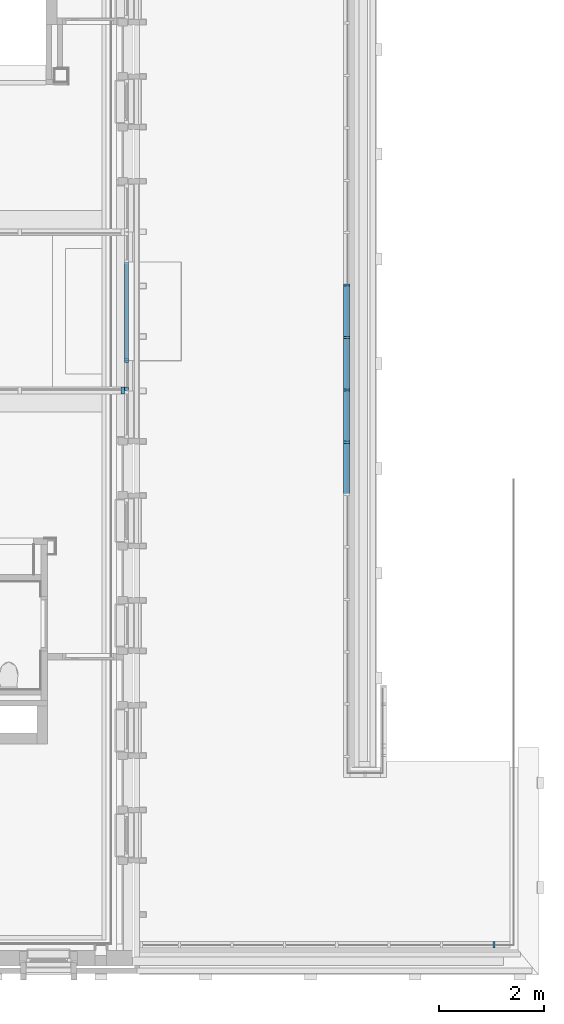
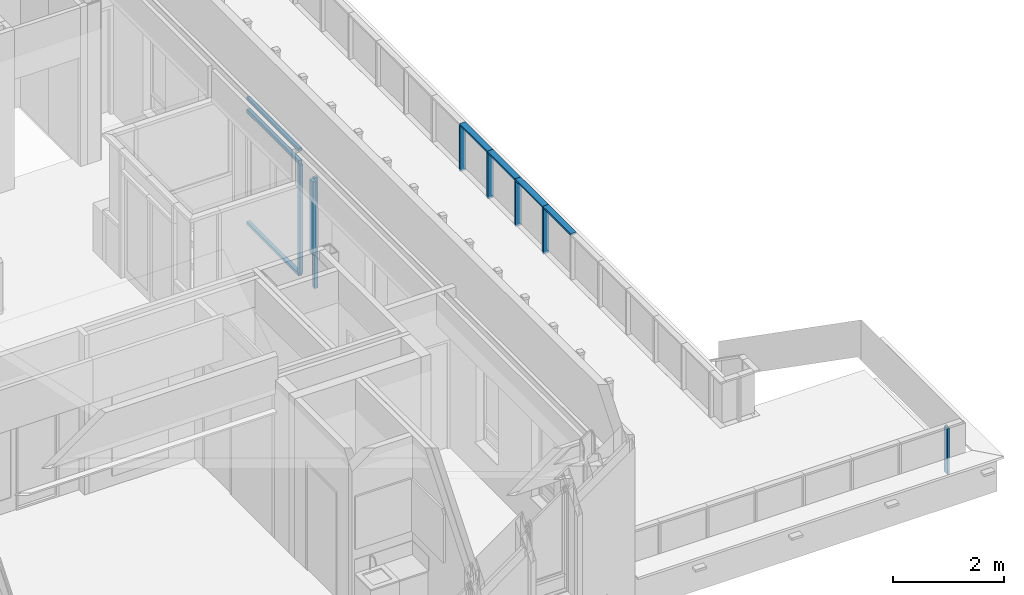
# One storey, part 4 of 118: 15 members, 4 elements without a shape of their own.
"""IFC2X3 building model written with IfcOpenShell, lengths in millimetres."""

from ifc_helpers import new_model, entity, si_unit, converted_unit, derived_unit, direction, frame, origin, origin_2d_with_axis, place, context, subcontext, project, spatial, rectangle, extrude, source, transform, mapped, material, material_list, type_object, type_shapes, element, aggregate, save


model = new_model("IFC2X3")

# Units and contexts
model_context = context("Model", 3, precision=0.01, world=origin(), true_north=direction((6.123031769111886e-17, 1.0)))
plan_context = context("Plan", 3, precision=0.01, world=origin(), true_north=direction((6.123031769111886e-17, 1.0)))
body_context = subcontext(model_context, "Body", "Model", "MODEL_VIEW")
ifc_project = project(units=[si_unit("LENGTHUNIT", "METRE", prefix="MILLI"), si_unit("AREAUNIT", "SQUARE_METRE"), si_unit("VOLUMEUNIT", "CUBIC_METRE"), converted_unit("PLANEANGLEUNIT", "DEGREE", entity("IfcRatioMeasure", 0.017453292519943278), si_unit("PLANEANGLEUNIT", "RADIAN"), dimensions=[0, 0, 0, 0, 0, 0, 0]), si_unit("MASSUNIT", "GRAM", prefix="KILO"), derived_unit("MASSDENSITYUNIT", [(si_unit("MASSUNIT", "GRAM", prefix="KILO"), 1), (si_unit("LENGTHUNIT", "METRE"), -3)]), derived_unit("IONCONCENTRATIONUNIT", [(si_unit("MASSUNIT", "GRAM", prefix="KILO"), 1), (si_unit("LENGTHUNIT", "METRE"), -3)]), derived_unit("MOMENTOFINERTIAUNIT", [(si_unit("LENGTHUNIT", "METRE"), 4)]), si_unit("TIMEUNIT", "SECOND"), si_unit("FREQUENCYUNIT", "HERTZ"), si_unit("THERMODYNAMICTEMPERATUREUNIT", "DEGREE_CELSIUS"), derived_unit("THERMALTRANSMITTANCEUNIT", [(si_unit("MASSUNIT", "GRAM", prefix="KILO"), 1), (si_unit("THERMODYNAMICTEMPERATUREUNIT", "KELVIN"), -1), (si_unit("TIMEUNIT", "SECOND"), -3)]), derived_unit("THERMALCONDUCTANCEUNIT", [(si_unit("MASSUNIT", "GRAM", prefix="KILO"), 1), (si_unit("THERMODYNAMICTEMPERATUREUNIT", "KELVIN"), -1), (si_unit("TIMEUNIT", "SECOND"), -3), (si_unit("LENGTHUNIT", "METRE"), 1)]), derived_unit("VOLUMETRICFLOWRATEUNIT", [(si_unit("LENGTHUNIT", "METRE"), 3), (si_unit("TIMEUNIT", "SECOND"), -1)]), derived_unit("MASSFLOWRATEUNIT", [(si_unit("MASSUNIT", "GRAM", prefix="KILO"), 1), (si_unit("TIMEUNIT", "SECOND"), -1)]), derived_unit("ROTATIONALFREQUENCYUNIT", [(si_unit("TIMEUNIT", "SECOND"), -1)]), si_unit("ELECTRICCURRENTUNIT", "AMPERE"), si_unit("ELECTRICVOLTAGEUNIT", "VOLT"), si_unit("POWERUNIT", "WATT"), si_unit("FORCEUNIT", "NEWTON", prefix="KILO"), si_unit("ILLUMINANCEUNIT", "LUX"), si_unit("LUMINOUSFLUXUNIT", "LUMEN"), si_unit("LUMINOUSINTENSITYUNIT", "CANDELA"), derived_unit("USERDEFINED", [(si_unit("MASSUNIT", "GRAM", prefix="KILO"), -1), (si_unit("LENGTHUNIT", "METRE"), -2), (si_unit("TIMEUNIT", "SECOND"), 3), (si_unit("LUMINOUSFLUXUNIT", "LUMEN"), 1)]), derived_unit("USERDEFINED", [(si_unit("MASSUNIT", "GRAM", prefix="KILO"), 1), (si_unit("TIMEUNIT", "SECOND"), -3), (si_unit("LENGTHUNIT", "METRE"), 3), (si_unit("ELECTRICCURRENTUNIT", "AMPERE"), -2)]), derived_unit("SOUNDPOWERUNIT", [(si_unit("MASSUNIT", "GRAM", prefix="KILO"), 1), (si_unit("TIMEUNIT", "SECOND"), -3), (si_unit("LENGTHUNIT", "METRE"), 2)]), derived_unit("SOUNDPRESSUREUNIT", [(si_unit("MASSUNIT", "GRAM", prefix="KILO"), 1), (si_unit("LENGTHUNIT", "METRE"), -1), (si_unit("TIMEUNIT", "SECOND"), -2)]), derived_unit("LINEARVELOCITYUNIT", [(si_unit("LENGTHUNIT", "METRE"), 1), (si_unit("TIMEUNIT", "SECOND"), -1)]), si_unit("PRESSUREUNIT", "PASCAL"), derived_unit("USERDEFINED", [(si_unit("MASSUNIT", "GRAM", prefix="KILO"), 1), (si_unit("LENGTHUNIT", "METRE"), -2), (si_unit("TIMEUNIT", "SECOND"), -2)]), derived_unit("LINEARFORCEUNIT", [(si_unit("MASSUNIT", "GRAM", prefix="KILO"), 1), (si_unit("TIMEUNIT", "SECOND"), -2)]), derived_unit("PLANARFORCEUNIT", [(si_unit("MASSUNIT", "GRAM", prefix="KILO"), 1), (si_unit("LENGTHUNIT", "METRE"), -1), (si_unit("TIMEUNIT", "SECOND"), -2)]), derived_unit("SPECIFICHEATCAPACITYUNIT", [(si_unit("THERMODYNAMICTEMPERATUREUNIT", "KELVIN"), -1), (si_unit("LENGTHUNIT", "METRE"), 2), (si_unit("TIMEUNIT", "SECOND"), -2)]), derived_unit("HEATINGVALUEUNIT", [(si_unit("LENGTHUNIT", "METRE"), 2), (si_unit("TIMEUNIT", "SECOND"), -2)]), derived_unit("VAPORPERMEABILITYUNIT", [(si_unit("LENGTHUNIT", "METRE"), -1), (si_unit("TIMEUNIT", "SECOND"), 1)]), derived_unit("DYNAMICVISCOSITYUNIT", [(si_unit("MASSUNIT", "GRAM", prefix="KILO"), 1), (si_unit("TIMEUNIT", "SECOND"), -1), (si_unit("LENGTHUNIT", "METRE"), -1)]), derived_unit("THERMALEXPANSIONCOEFFICIENTUNIT", [(si_unit("THERMODYNAMICTEMPERATUREUNIT", "KELVIN"), -1)]), derived_unit("MODULUSOFELASTICITYUNIT", [(si_unit("MASSUNIT", "GRAM", prefix="KILO"), 1), (si_unit("LENGTHUNIT", "METRE"), -1), (si_unit("TIMEUNIT", "SECOND"), -2)]), derived_unit("ISOTHERMALMOISTURECAPACITYUNIT", [(si_unit("LENGTHUNIT", "METRE"), 3), (si_unit("MASSUNIT", "GRAM", prefix="KILO"), -1)]), derived_unit("MOISTUREDIFFUSIVITYUNIT", [(si_unit("TIMEUNIT", "SECOND"), -1), (si_unit("LENGTHUNIT", "METRE"), 2)])], contexts=[model_context, plan_context])

# Site, building, storey
site_placement = place(None, origin())
site = spatial("IfcSite", under=ifc_project, at=site_placement, Name="Locatie", CompositionType="ELEMENT")
building_placement = place(site_placement, origin())
building = spatial("IfcBuilding", under=site, at=building_placement, Name="Bouwwerk", CompositionType="ELEMENT")
storey_placement = place(building_placement, frame((0.0, 0.0, 7800.0)))
storey = spatial("IfcBuildingStorey", under=building, at=storey_placement, Name="02 tweede verdieping", CompositionType="ELEMENT", Elevation=7800.000000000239)

# Curtain wall, members
curtain_wall_type_1 = type_object("IfcCurtainWallType", Name="Curtain Wall:NLRS_21_CW_Ontwerpkozijn_aluminium_RT72", PredefinedType="NOTDEFINED")
curtain_wall_1_placement = place(storey_placement, frame((0.0, 0.0, -7800.0)))
curtain_wall_1 = element("IfcCurtainWall", 1, at=curtain_wall_1_placement, inside=storey, type_object=curtain_wall_type_1, Name="Curtain Wall:NLRS_21_CW_Ontwerpkozijn_aluminium_RT72", ObjectType="Curtain Wall:NLRS_21_CW_Ontwerpkozijn_aluminium_RT72")
ifc_material_1 = material(Name="a_kozijn")
ifc_material_2 = material(Name="<Unnamed>")
ifc_material_list = material_list([ifc_material_2, ifc_material_1])
member_type_1 = type_object("IfcMemberType", Name="Rectangular Mullion:RT72_Vb_raam", PredefinedType="MULLION", material=ifc_material_list)
shared_shape_1 = source(origin(), body_context, "Body", "SweptSolid", [
    extrude(rectangle(XDim=71.99999999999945, YDim=68.00000000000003, at=origin_2d_with_axis()), frame((-34.0, -36.0, -1878.0), z_axis=(0.0, 0.0, 1.0), x_axis=(0.0, -1.0, 0.0)), (0.0, 0.0, 1.0), 1877.9999999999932),
])
type_shapes(member_type_1, [shared_shape_1])
member_1_placement = place(curtain_wall_1_placement, frame((34753.0, 21261.0, 10863.0), z_axis=(0.0, -1.0, 0.0), x_axis=(0.0, 0.0, 1.0)))
member_1 = element("IfcMember", 2, at=member_1_placement, type_object=member_type_1, material=ifc_material_1, Name="Rectangular Mullion:RT72_Vb_raam", ObjectType="Rectangular Mullion:RT72_Vb_raam", context=body_context, shape_type="MappedRepresentation", body=[
    mapped(shared_shape_1, transform((0.0, 0.0, 0.0), scale=1.0)),
])
member_type_2 = type_object("IfcMemberType", Name="Rectangular Mullion:RT72_Hm_raam_78", PredefinedType="MULLION", material=ifc_material_list)
shared_shape_2 = source(origin(), body_context, "Body", "SweptSolid", [
    extrude(rectangle(XDim=71.99999999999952, YDim=77.99999999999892, at=origin_2d_with_axis()), frame((0.0, -36.0, -2393.0), z_axis=(0.0, 0.0, 1.0), x_axis=(0.0, -1.0, 0.0)), (0.0, 0.0, 1.0), 2393.000000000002),
])
type_shapes(member_type_2, [shared_shape_2])
member_2_placement = place(curtain_wall_1_placement, frame((34753.0, 21261.0, 8124.0), z_axis=(0.0, 0.0, -1.0), x_axis=(0.0, -1.0, 0.0)))
member_2 = element("IfcMember", 3, at=member_2_placement, type_object=member_type_2, material=ifc_material_1, Name="Rectangular Mullion:RT72_Hm_raam_78", ObjectType="Rectangular Mullion:RT72_Hm_raam_78", context=body_context, shape_type="MappedRepresentation", body=[
    mapped(shared_shape_2, transform((0.0, 0.0, 0.0), scale=1.0)),
])
member_type_3 = type_object("IfcMemberType", Name="Rectangular Mullion:RT72_Vo_raam", PredefinedType="MULLION", material=ifc_material_list)
shared_shape_3 = source(origin(), body_context, "Body", "SweptSolid", [
    extrude(rectangle(XDim=71.99999999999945, YDim=68.00000000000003, at=origin_2d_with_axis()), frame((-34.0, -36.0, -1878.0), z_axis=(0.0, 0.0, 1.0), x_axis=(0.0, -1.0, 0.0)), (0.0, 0.0, 1.0), 1877.9999999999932),
])
type_shapes(member_type_3, [shared_shape_3])
member_3_placement = place(curtain_wall_1_placement, frame((34753.0, 23139.0, 8056.0), z_axis=(0.0, 1.0, 0.0), x_axis=(0.0, 0.0, -1.0)))
member_3 = element("IfcMember", 4, at=member_3_placement, type_object=member_type_3, material=ifc_material_1, Name="Rectangular Mullion:RT72_Vo_raam", ObjectType="Rectangular Mullion:RT72_Vo_raam", context=body_context, shape_type="MappedRepresentation", body=[
    mapped(shared_shape_3, transform((0.0, 0.0, 0.0), scale=1.0)),
])
member_type_4 = type_object("IfcMemberType", Name="Rectangular Mullion:RT72_Vm_raam", PredefinedType="MULLION", material=ifc_material_list)
shared_shape_4 = source(origin(), body_context, "Body", "SweptSolid", [
    extrude(rectangle(XDim=71.99999999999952, YDim=77.99999999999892, at=origin_2d_with_axis()), frame((0.0, -36.0, -1878.0), z_axis=(0.0, 0.0, 1.0), x_axis=(0.0, -1.0, 0.0)), (0.0, 0.0, 1.0), 1877.9999999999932),
])
type_shapes(member_type_4, [shared_shape_4])
member_4_placement = place(curtain_wall_1_placement, frame((34753.0, 21261.0, 10556.0), z_axis=(0.0, -1.0, 0.0), x_axis=(0.0, 0.0, 1.0)))
member_4 = element("IfcMember", 5, at=member_4_placement, type_object=member_type_4, material=ifc_material_1, Name="Rectangular Mullion:RT72_Vm_raam", ObjectType="Rectangular Mullion:RT72_Vm_raam", context=body_context, shape_type="MappedRepresentation", body=[
    mapped(shared_shape_4, transform((0.0, 0.0, 0.0), scale=1.0)),
])
member_type_5 = type_object("IfcMemberType", Name="Rectangular Mullion:RT72_Hl_raam", PredefinedType="MULLION", material=ifc_material_list)
shared_shape_5 = source(origin(), body_context, "Body", "SweptSolid", [
    extrude(rectangle(XDim=71.99999999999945, YDim=68.00000000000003, at=origin_2d_with_axis()), frame((0.0, -36.0, -2432.0), z_axis=(0.0, 0.0, 1.0), x_axis=(0.0, -1.0, 0.0)), (0.0, 0.0, 1.0), 2432.0000000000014),
])
type_shapes(member_type_5, [shared_shape_5])
member_5_placement = place(curtain_wall_1_placement, frame((34753.0, 20724.0, 8124.0), z_axis=(0.0, 0.0, -1.0), x_axis=(0.0, -1.0, 0.0)))
member_5 = element("IfcMember", 6, at=member_5_placement, type_object=member_type_5, material=ifc_material_1, Name="Rectangular Mullion:RT72_Hl_raam", ObjectType="Rectangular Mullion:RT72_Hl_raam", context=body_context, shape_type="MappedRepresentation", body=[
    mapped(shared_shape_5, transform((0.0, 0.0, 0.0), scale=1.0)),
])
aggregate(curtain_wall_1, [member_1, member_2, member_3, member_4, member_5])

# Curtain wall, member
curtain_wall_type_2 = type_object("IfcCurtainWallType", Name="Curtain Wall:32_ontwerpkozijn binnen 125*67", PredefinedType="NOTDEFINED")
curtain_wall_2_placement = place(storey_placement, frame((0.0, 0.0, -7800.0)))
curtain_wall_2 = element("IfcCurtainWall", 7, at=curtain_wall_2_placement, inside=storey, type_object=curtain_wall_type_2, Name="Curtain Wall:32_ontwerpkozijn binnen 125*67", ObjectType="Curtain Wall:32_ontwerpkozijn binnen 125*67")
ifc_material_3 = material(Name="RAL 9010 - wit")
member_type_6 = type_object("IfcMemberType", Name="Rectangular Mullion:67x125", PredefinedType="MULLION", material=ifc_material_3)
shared_shape_6 = source(origin(), body_context, "Body", "SweptSolid", [
    extrude(rectangle(XDim=125.00000000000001, YDim=67.0, at=origin_2d_with_axis()), frame((-33.5, -62.50000000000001, -1616.0), z_axis=(0.0, 0.0, 1.0), x_axis=(0.0, -1.0, 0.0)), (0.0, 0.0, 1.0), 1616.000000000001),
])
type_shapes(member_type_6, [shared_shape_6])
member_6_placement = place(curtain_wall_2_placement, frame((34747.80000000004, 20750.0, 10533.0)))
member_6 = element("IfcMember", 8, at=member_6_placement, type_object=member_type_6, material=ifc_material_3, Name="Rectangular Mullion:67x125", ObjectType="Rectangular Mullion:67x125", context=body_context, shape_type="MappedRepresentation", body=[
    mapped(shared_shape_6, transform((0.0, 0.0, 0.0), scale=1.0)),
])
aggregate(curtain_wall_2, [member_6])

# Curtain wall, members
curtain_wall_type_3 = type_object("IfcCurtainWallType", Name="Curtain Wall:railing 120x40", PredefinedType="NOTDEFINED")
curtain_wall_3_placement = place(storey_placement, frame((0.0, 0.0, -7800.0)))
curtain_wall_3 = element("IfcCurtainWall", 9, at=curtain_wall_3_placement, inside=storey, type_object=curtain_wall_type_3, Name="Curtain Wall:railing 120x40", ObjectType="Curtain Wall:railing 120x40")
ifc_material_4 = material(Name="staal")
member_type_7 = type_object("IfcMemberType", Name="Rectangular Mullion:40x120 railing", PredefinedType="MULLION", material=ifc_material_4)
shared_shape_7 = source(origin(), body_context, "Body", "SweptSolid", [
    extrude(rectangle(XDim=120.0, YDim=40.0, at=origin_2d_with_axis()), frame((-20.0, 0.0, -1000.0), z_axis=(0.0, 0.0, 1.0), x_axis=(0.0, -1.0, 0.0)), (0.0, 0.0, 1.0), 1000.0000000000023),
])
type_shapes(member_type_7, [shared_shape_7])
member_7_placement = place(curtain_wall_3_placement, frame((38990.0, 19700.0, 9080.0), z_axis=(0.0, 1.0, 0.0), x_axis=(0.0, 0.0, 1.0)))
member_7 = element("IfcMember", 10, at=member_7_placement, type_object=member_type_7, material=ifc_material_4, Name="Rectangular Mullion:40x120 railing", ObjectType="Rectangular Mullion:40x120 railing", context=body_context, shape_type="MappedRepresentation", body=[
    mapped(shared_shape_7, transform((0.0, 0.0, 0.0), scale=1.0)),
])
member_8_placement = place(curtain_wall_3_placement, frame((38990.0, 21700.0, 9080.0), z_axis=(0.0, 1.0, 0.0), x_axis=(0.0, 0.0, 1.0)))
member_8 = element("IfcMember", 11, at=member_8_placement, type_object=member_type_7, material=ifc_material_4, Name="Rectangular Mullion:40x120 railing", ObjectType="Rectangular Mullion:40x120 railing", context=body_context, shape_type="MappedRepresentation", body=[
    mapped(shared_shape_7, transform((0.0, 0.0, 0.0), scale=1.0)),
])
member_9_placement = place(curtain_wall_3_placement, frame((38990.0, 20700.0, 9080.0), z_axis=(0.0, 1.0, 0.0), x_axis=(0.0, 0.0, 1.0)))
member_9 = element("IfcMember", 12, at=member_9_placement, type_object=member_type_7, material=ifc_material_4, Name="Rectangular Mullion:40x120 railing", ObjectType="Rectangular Mullion:40x120 railing", context=body_context, shape_type="MappedRepresentation", body=[
    mapped(shared_shape_7, transform((0.0, 0.0, 0.0), scale=1.0)),
])
member_10_placement = place(curtain_wall_3_placement, frame((38990.0, 22700.0, 9080.0), z_axis=(0.0, 1.0, 0.0), x_axis=(0.0, 0.0, 1.0)))
member_10 = element("IfcMember", 13, at=member_10_placement, type_object=member_type_7, material=ifc_material_4, Name="Rectangular Mullion:40x120 railing", ObjectType="Rectangular Mullion:40x120 railing", context=body_context, shape_type="MappedRepresentation", body=[
    mapped(shared_shape_7, transform((0.0, 0.0, 0.0), scale=1.0)),
])

# Curtain wall, member
curtain_wall_4_placement = place(storey_placement, frame((0.0, 0.0, -7800.0)))
curtain_wall_4 = element("IfcCurtainWall", 14, at=curtain_wall_4_placement, inside=storey, type_object=curtain_wall_type_3, Name="Curtain Wall:railing 120x40", ObjectType="Curtain Wall:railing 120x40")
member_type_8 = type_object("IfcMemberType", Name="Rectangular Mullion:40x120 railing", PredefinedType="MULLION", material=ifc_material_4)
shared_shape_8 = source(origin(), body_context, "Body", "SweptSolid", [
    extrude(rectangle(XDim=120.0, YDim=40.0, at=origin_2d_with_axis()), frame((0.0, 0.0, -1007.0), z_axis=(0.0, 0.0, 1.0), x_axis=(0.0, -1.0, 0.0)), (0.0, 0.0, 1.0), 1007.0000000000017),
])
type_shapes(member_type_8, [shared_shape_8])
member_11_placement = place(curtain_wall_4_placement, frame((41800.0, 10110.0, 8033.0), z_axis=(0.0, 0.0, -1.0), x_axis=(1.0, 0.0, 0.0)))
member_11 = element("IfcMember", 15, at=member_11_placement, type_object=member_type_8, material=ifc_material_4, Name="Rectangular Mullion:40x120 railing", ObjectType="Rectangular Mullion:40x120 railing", context=body_context, shape_type="MappedRepresentation", body=[
    mapped(shared_shape_8, transform((0.0, 0.0, 0.0), scale=1.0)),
])
aggregate(curtain_wall_4, [member_11])

# Member
member_12_placement = place(curtain_wall_3_placement, frame((38990.0, 19700.0, 8033.0), z_axis=(0.0, 0.0, -1.0), x_axis=(0.0, 1.0, 0.0)))
member_12 = element("IfcMember", 16, at=member_12_placement, type_object=member_type_8, material=ifc_material_4, Name="Rectangular Mullion:40x120 railing", ObjectType="Rectangular Mullion:40x120 railing", context=body_context, shape_type="MappedRepresentation", body=[
    mapped(shared_shape_8, transform((0.0, 0.0, 0.0), scale=1.0)),
])

member_13_placement = place(curtain_wall_3_placement, frame((38990.0, 21700.0, 8033.0), z_axis=(0.0, 0.0, -1.0), x_axis=(0.0, 1.0, 0.0)))
member_13 = element("IfcMember", 17, at=member_13_placement, type_object=member_type_8, material=ifc_material_4, Name="Rectangular Mullion:40x120 railing", ObjectType="Rectangular Mullion:40x120 railing", context=body_context, shape_type="MappedRepresentation", body=[
    mapped(shared_shape_8, transform((0.0, 0.0, 0.0), scale=1.0)),
])

member_14_placement = place(curtain_wall_3_placement, frame((38990.0, 20700.0, 8033.0), z_axis=(0.0, 0.0, -1.0), x_axis=(0.0, 1.0, 0.0)))
member_14 = element("IfcMember", 18, at=member_14_placement, type_object=member_type_8, material=ifc_material_4, Name="Rectangular Mullion:40x120 railing", ObjectType="Rectangular Mullion:40x120 railing", context=body_context, shape_type="MappedRepresentation", body=[
    mapped(shared_shape_8, transform((0.0, 0.0, 0.0), scale=1.0)),
])

member_15_placement = place(curtain_wall_3_placement, frame((38990.0, 22700.0, 8033.0), z_axis=(0.0, 0.0, -1.0), x_axis=(0.0, 1.0, 0.0)))
member_15 = element("IfcMember", 19, at=member_15_placement, type_object=member_type_8, material=ifc_material_4, Name="Rectangular Mullion:40x120 railing", ObjectType="Rectangular Mullion:40x120 railing", context=body_context, shape_type="MappedRepresentation", body=[
    mapped(shared_shape_8, transform((0.0, 0.0, 0.0), scale=1.0)),
])

aggregate(curtain_wall_3, [member_7, member_12, member_8, member_13, member_9, member_10, member_14, member_15])

save(model, "model.ifc")
